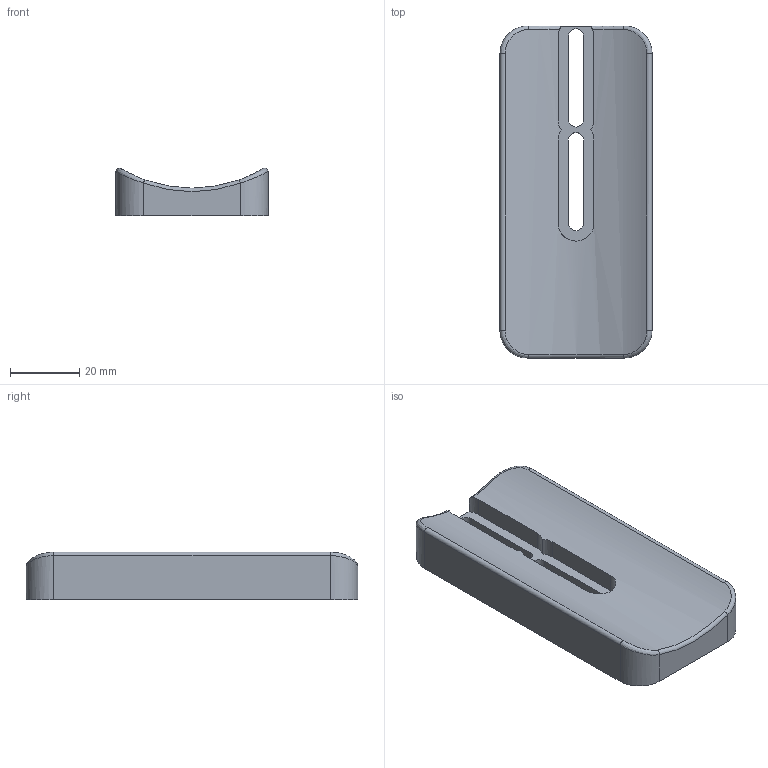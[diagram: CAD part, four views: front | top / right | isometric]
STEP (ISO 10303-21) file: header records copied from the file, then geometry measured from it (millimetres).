
FILE_DESCRIPTION(('Open CASCADE Model'),'2;1');
FILE_NAME('Open CASCADE Shape Model','2026-10-04T18:41:28',('Author'),( 'Open CASCADE'),'Open CASCADE STEP processor 7.8','Open CASCADE 7.8' ,'Unknown');
FILE_SCHEMA(('AUTOMOTIVE_DESIGN { 1 0 10303 214 1 1 1 1 }'));
Length unit declared in the file: millimetre
Products named in the file (1): Open CASCADE STEP translator 7.8 3
Bounding box: 44 x 96 x 13.79 mm (x, y, z)
Volume: 37909.3 mm3; surface area: 12290.8 mm2
Topology: 1 solids, 1 shells, 39 faces, 103 edges, 66 vertices
Faces by surface type: cylinder 18, plane 14, bspline 4, torus 3
Entity records: 4729 total; most frequent: CARTESIAN_POINT 2821, DIRECTION 308, ORIENTED_EDGE 206, PCURVE 206, DEFINITIONAL_REPRESENTATION 206, LINE 158, VECTOR 158, EDGE_CURVE 103
